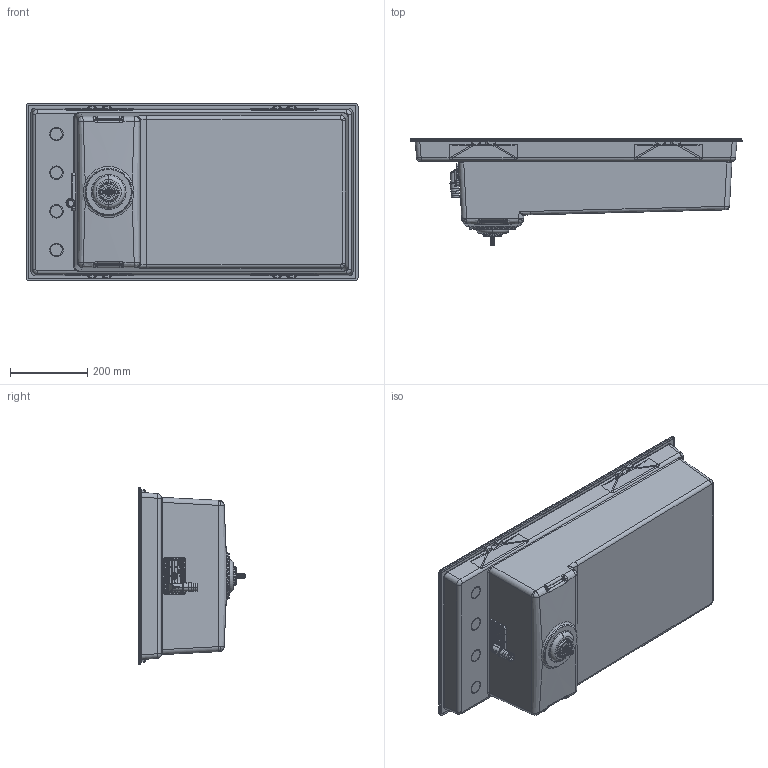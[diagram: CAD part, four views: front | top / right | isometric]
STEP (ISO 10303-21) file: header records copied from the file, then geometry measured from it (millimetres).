
FILE_DESCRIPTION (( 'STEP AP203' ), '1' );
FILE_NAME ('3d_dialogo_360.STEP', '2021-07-02T12:18:03', ( '' ), ( '' ), 'SwSTEP 2.0', 'SolidWorks 2020', '' );
FILE_SCHEMA (( 'CONFIG_CONTROL_DESIGN' ));
Products named in the file (1): 3d_dialogo_360
Bounding box: 860 x 276.37 x 460 mm (x, y, z)
Volume: 6690024.7 mm3; surface area: 1815021.5 mm2
Topology: 15 solids, 16 shells, 3399 faces, 8855 edges, 5496 vertices
Faces by surface type: bspline 1233, cylinder 1028, plane 857, cone 164, torus 105, sphere 12
Entity records: 165985 total; most frequent: CARTESIAN_POINT 101278, ORIENTED_EDGE 17596, EDGE_CURVE 8798, DIRECTION 7447, B_SPLINE_CURVE_WITH_KNOTS 6011, VERTEX_POINT 5496, EDGE_LOOP 3554, ADVANCED_FACE 3399
